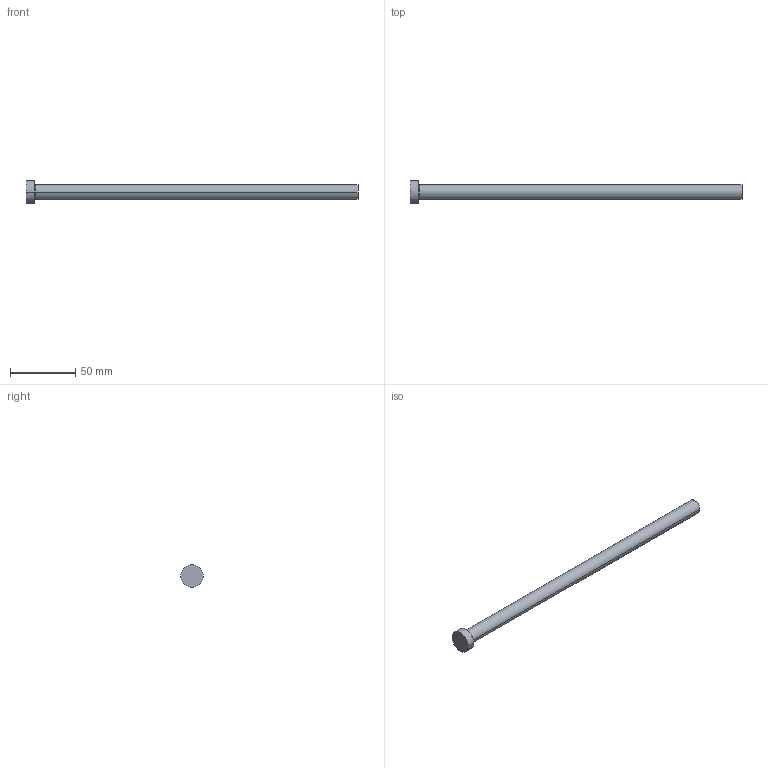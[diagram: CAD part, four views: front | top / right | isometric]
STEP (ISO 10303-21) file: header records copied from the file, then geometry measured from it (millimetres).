
FILE_DESCRIPTION (( 'STEP AP214' ), '1' );
FILE_NAME ('P29-10.STEP', '2020-03-12T10:27:34', ( '' ), ( '' ), 'SwSTEP 2.0', 'SolidWorks 2018', '' );
FILE_SCHEMA (( 'AUTOMOTIVE_DESIGN' ));
Length unit declared in the file: inch
Products named in the file (1): P29-10
Bounding box: 254 x 17.46 x 17.46 mm (x, y, z)
Volume: 25510.6 mm3; surface area: 9449.4 mm2
Topology: 1 solids, 1 shells, 13 faces, 24 edges, 14 vertices
Faces by surface type: cone 4, cylinder 4, plane 3, torus 2
Entity records: 366 total; most frequent: DIRECTION 68, CARTESIAN_POINT 52, ORIENTED_EDGE 48, AXIS2_PLACEMENT_3D 30, EDGE_CURVE 24, CIRCLE 16, VERTEX_POINT 14, EDGE_LOOP 14
